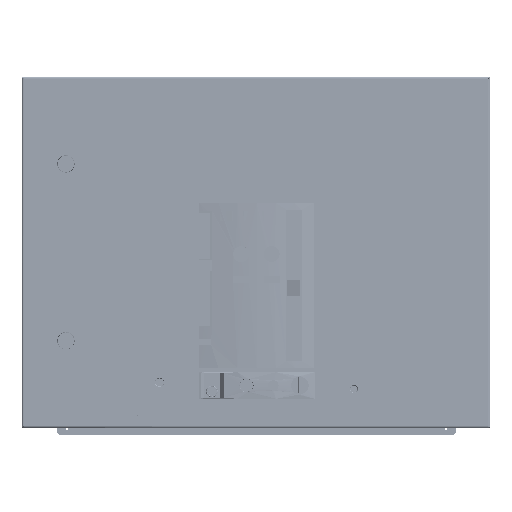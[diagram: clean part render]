
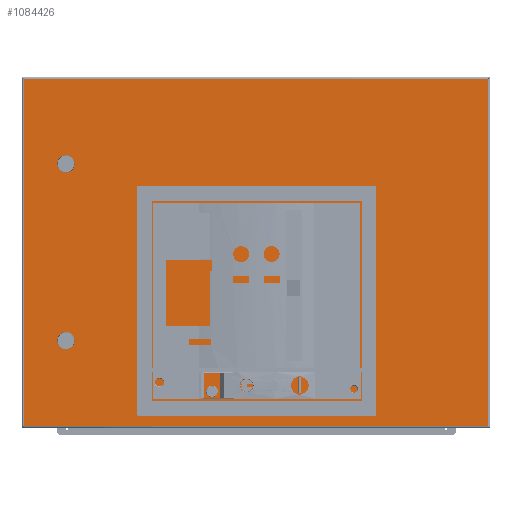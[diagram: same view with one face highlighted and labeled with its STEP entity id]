
A CAD part, top view. The second image highlights one B-rep face of the part: STEP entity #1084426.
In plain terms, the highlighted planar face has unit normal (0, 0, 1).
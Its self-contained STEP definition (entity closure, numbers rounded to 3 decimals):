
#1078311=CARTESIAN_POINT(' ',(393.1,544.7,26.9));
#1078312=VERTEX_POINT(' ',#1078311);
#1079046=CARTESIAN_POINT(' ',(393.1,-44.7,26.9));
#1079047=VERTEX_POINT(' ',#1079046);
#1080011=CARTESIAN_POINT(' ',(393.1,544.7,26.9));
#1080016=DIRECTION(' ',(0.,-1.,0.));
#1080021=VECTOR(' ',#1080016,1.);
#1080026=LINE('',#1080011,#1080021);
#1080031=EDGE_CURVE(' ',#1078312,#1079047,#1080026,.T.);
#1082311=CARTESIAN_POINT(' ',(-395.3,-44.7,26.9));
#1082312=VERTEX_POINT(' ',#1082311);
#1082926=CARTESIAN_POINT(' ',(-395.3,544.7,26.9));
#1082927=VERTEX_POINT(' ',#1082926);
#1084296=DIRECTION(' ',(-0.,-0.,1.));
#1084301=CARTESIAN_POINT(' ',(393.1,-44.7,26.9));
#1084306=DIRECTION(' ',(0.,1.,0.));
#1084311=AXIS2_PLACEMENT_3D(' ',#1084301,#1084296,#1084306);
#1084316=PLANE('NONE',#1084311);
#1084321=CARTESIAN_POINT(' ',(-395.3,-44.7,26.9));
#1084326=DIRECTION(' ',(1.,0.,0.));
#1084331=VECTOR(' ',#1084326,1.);
#1084336=LINE('',#1084321,#1084331);
#1084341=EDGE_CURVE(' ',#1082312,#1079047,#1084336,.T.);
#1084346=ORIENTED_EDGE(' ',*,*,#1084341,.T.);
#1084351=ORIENTED_EDGE(' ',*,*,#1080031,.F.);
#1084356=CARTESIAN_POINT(' ',(393.1,544.7,26.9));
#1084361=DIRECTION(' ',(-1.,0.,0.));
#1084366=VECTOR(' ',#1084361,1.);
#1084371=LINE('',#1084356,#1084366);
#1084376=EDGE_CURVE(' ',#1078312,#1082927,#1084371,.T.);
#1084381=ORIENTED_EDGE(' ',*,*,#1084376,.T.);
#1084386=CARTESIAN_POINT(' ',(-395.3,544.7,26.9));
#1084391=DIRECTION(' ',(0.,-1.,0.));
#1084396=VECTOR(' ',#1084391,1.);
#1084401=LINE('',#1084386,#1084396);
#1084406=EDGE_CURVE(' ',#1082927,#1082312,#1084401,.T.);
#1084411=ORIENTED_EDGE(' ',*,*,#1084406,.T.);
#1084416=EDGE_LOOP(' ',(#1084346,#1084351,#1084381,#1084411));
#1084421=FACE_OUTER_BOUND(' ',#1084416,.T.);
#1084426=ADVANCED_FACE('NONE',(#1084421),#1084316,.T.);
